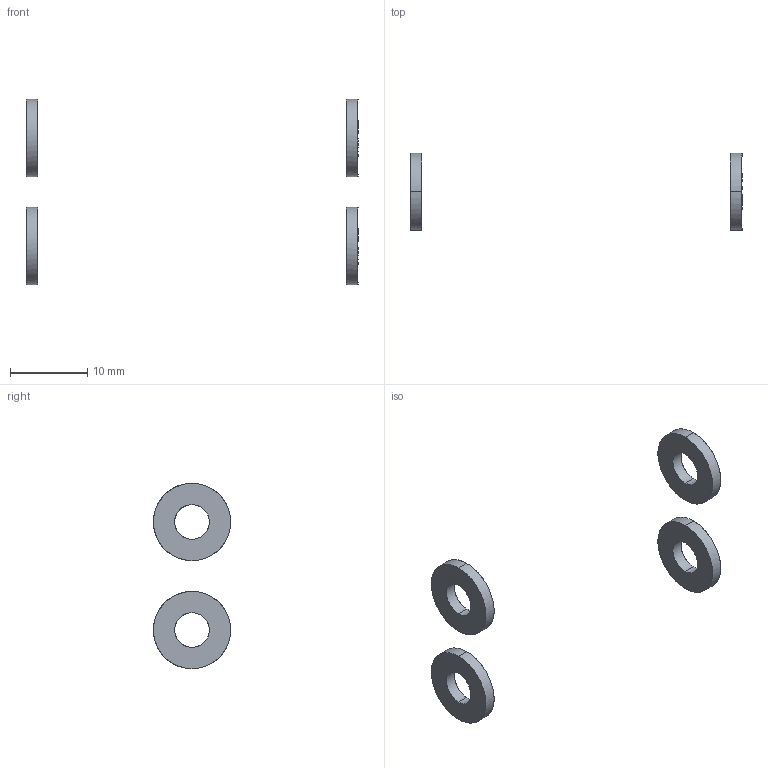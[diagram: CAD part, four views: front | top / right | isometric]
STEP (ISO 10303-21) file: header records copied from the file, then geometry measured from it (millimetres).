
FILE_DESCRIPTION(/* description */ (''),/* implementation_level */ '2;1');
FILE_NAME(/* name */ '7.x-cart#7.8#PACK-SPWFN4',/* time_stamp */ '2014-12-01T20:17:48+01:00',/* author */ (''),/* organization */ (''),/* preprocessor_version */ 'ST-DEVELOPER v14',/* originating_system */ '',/* authorisation */ '');
FILE_SCHEMA (('AUTOMOTIVE_DESIGN'));
Length unit declared in the file: millimetre
Products named in the file (2): Document; washer DIN9021-like, form G, M4
Assembly tree (2 placements, depth 2):
  Document
    washer DIN9021-like, form G, M4  x2
Bounding box: 43 x 9.99 x 24 mm (x, y, z)
Surface area: 774.6 mm2 (no closed solid volume)
Topology: 0 solids, 24 shells, 24 faces, 80 edges, 80 vertices
Faces by surface type: bspline 16, plane 8
Entity records: 1539 total; most frequent: CARTESIAN_POINT 767, B_SPLINE_CURVE_WITH_KNOTS 72, ORIENTED_EDGE 60, PCURVE 60, DEFINITIONAL_REPRESENTATION 60, SURFACE_CURVE 60, EDGE_CURVE 60, VERTEX_POINT 60
